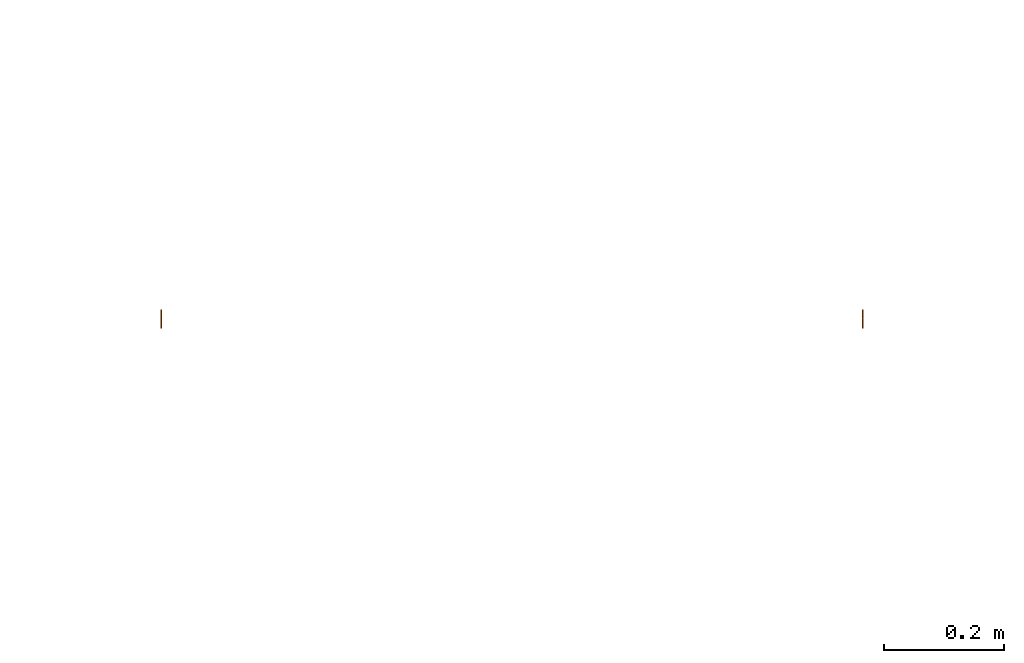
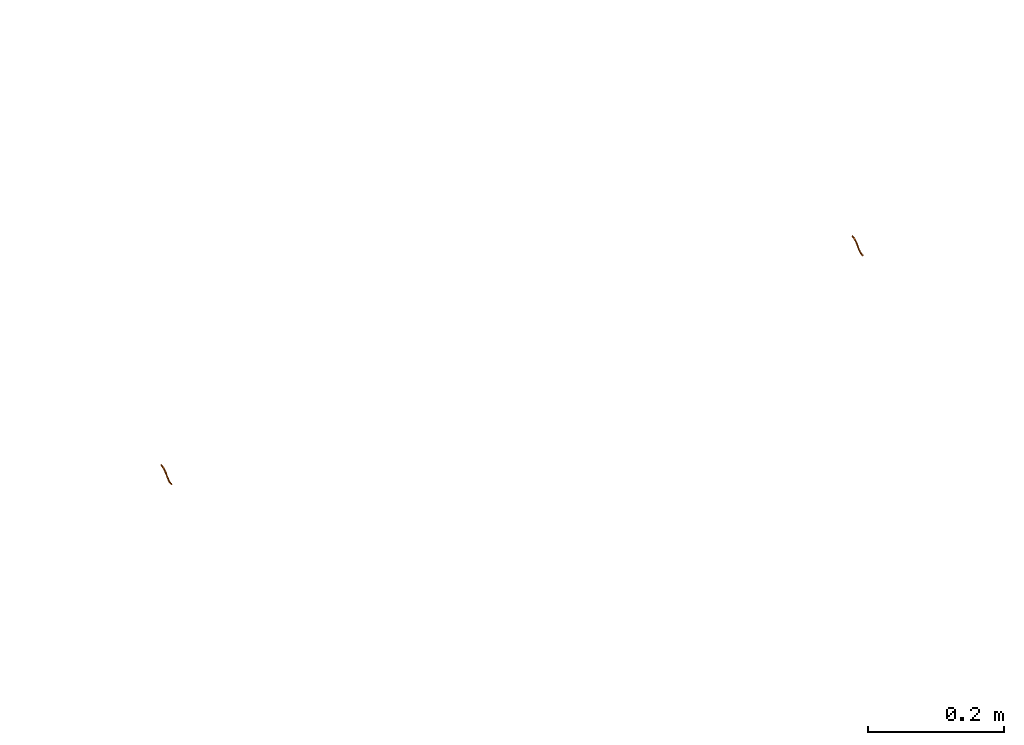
# One storey, part 193 of 197: 2 proxies.
"""IFC2X3 building model written with IfcOpenShell, lengths in metres."""

from ifc_helpers import new_model, entity, si_unit, converted_unit, direction, frame, origin, place, context, subcontext, project, spatial, faceted_brep, source, transform, mapped, material, type_object, type_shapes, element, save


model = new_model("IFC2X3")

# Units and contexts
model_context = context("Model", 3, precision=1e-05, world=origin(), true_north=direction((6.123031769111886e-17, 1.0)))
body_context = subcontext(model_context, "Body", "Model", "MODEL_VIEW")
ifc_project = project(units=[si_unit("LENGTHUNIT", "METRE"), converted_unit("PLANEANGLEUNIT", "DEGREE", entity("IfcPlaneAngleMeasure", 0.017453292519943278), si_unit("PLANEANGLEUNIT", "RADIAN"), dimensions=[0, 0, 0, 0, 0, 0, 0]), si_unit("AREAUNIT", "SQUARE_METRE")], contexts=[model_context])

# Site, building, storey
site_placement = place(None, origin())
site = spatial("IfcSite", under=ifc_project, at=site_placement, Name="Default", CompositionType="ELEMENT")
building_placement = place(site_placement, origin())
building = spatial("IfcBuilding", under=site, at=building_placement, CompositionType="ELEMENT")
storey_placement = place(building_placement, origin())
storey = spatial("IfcBuildingStorey", under=building, at=storey_placement, Name="Niveau 0", CompositionType="ELEMENT", Elevation=0.0)

# Proxies
ifc_material = material(Name="<Unnamed>")
building_element_proxy_type_1 = type_object("IfcBuildingElementProxyType", Name="Attente électrique-100e:FM CVC", PredefinedType="NOTDEFINED", material=ifc_material)
shared_shape_1 = source(origin(), body_context, "Body", "Brep", [
    faceted_brep([(0.00015679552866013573, 0.02468901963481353, 0.0071236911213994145), (-0.0008432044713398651, 0.024606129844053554, 0.00812024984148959), (0.00015679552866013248, 0.024523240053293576, 0.009116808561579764), (0.0011567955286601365, 0.024606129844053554, 0.008120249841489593), (0.0010682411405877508, 0.020307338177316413, 0.007781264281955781), (0.0001567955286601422, 0.020902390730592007, 0.005938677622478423), (0.0011263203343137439, 0.017575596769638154, 0.006150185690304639), (0.0001567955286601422, 0.015326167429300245, 0.00419361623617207), (0.00015679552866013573, 0.020007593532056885, 0.005658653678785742), (0.00015679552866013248, 0.014326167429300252, 0.005925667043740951), (0.0009522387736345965, 0.011698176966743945, 0.0036743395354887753), (0.0009420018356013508, 0.015917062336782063, 0.006344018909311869), (0.00015679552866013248, 0.010395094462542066, 0.0023079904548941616), (0.00015679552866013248, 0.009383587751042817, 0.0013771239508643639), (0.00015679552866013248, 0.006464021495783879, -0.00130968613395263), (0.0006567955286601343, 0.006874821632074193, -0.0015947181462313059), (0.0011567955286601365, 0.007285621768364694, -0.0018797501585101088), (0.0001567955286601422, 0.008107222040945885, -0.002449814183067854), (0.0010477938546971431, 0.01190066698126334, 0.002476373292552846), (0.0001567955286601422, 0.011716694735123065, 0.000871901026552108), (0.00015679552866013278, 0.020736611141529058, 0.007931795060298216), (0.00015679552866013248, 0.01942470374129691, 0.0075212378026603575), (-0.000613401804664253, 0.017791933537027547, 0.005814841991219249), (-0.0008432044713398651, 0.007285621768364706, -0.0018797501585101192), (-0.0006561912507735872, 0.013063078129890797, 0.003217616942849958), (-0.0007811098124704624, 0.017711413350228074, 0.006845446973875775), (-0.000757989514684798, 0.011606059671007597, 0.0033430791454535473), (0.00015679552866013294, -0.006217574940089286, -0.0072232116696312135), (-0.0008432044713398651, -0.006308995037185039, -0.00821902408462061), (-0.00022603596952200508, -0.006365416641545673, -0.00883360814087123), (0.00015679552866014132, -0.006400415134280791, -0.009214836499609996), (0.0011567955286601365, -0.006308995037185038, -0.008219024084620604), (0.0005396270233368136, -0.006252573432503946, -0.0076044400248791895), (0.0001567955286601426, 0.00342572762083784, -0.0063951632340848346), (0.0008639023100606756, 0.004493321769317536, -0.005806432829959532), (0.0009254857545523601, 0.0019625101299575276, -0.007298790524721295), (0.00015679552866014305, -0.002505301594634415, -0.008536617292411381), (0.00015679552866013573, 0.00493736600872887, -0.005121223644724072), (0.00015679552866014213, 0.005083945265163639, -0.0049976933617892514), (0.00015679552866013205, -0.002322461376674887, -0.006544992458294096), (0.00015679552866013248, -0.002647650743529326, -0.006601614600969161), (0.0009203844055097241, 0.004301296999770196, -0.0042243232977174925), (0.00015679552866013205, 0.0036931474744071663, -0.003644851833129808), (0.00015679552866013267, 0.0034407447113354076, -0.0038575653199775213), (0.00015679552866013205, 0.0009222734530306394, -0.005980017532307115), (0.0010089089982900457, -0.0014622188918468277, -0.008405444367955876), (0.001064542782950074, -0.00036395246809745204, -0.0071166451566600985), (0.0011567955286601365, 0.003257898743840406, -0.0058162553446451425), (0.00015679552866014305, 0.0017675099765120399, -0.007792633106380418), (0.001078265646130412, -0.0034805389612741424, -0.007818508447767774), (0.0011516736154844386, 0.005514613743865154, -0.004127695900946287), (-0.0006872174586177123, 0.004983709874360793, -0.0037543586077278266), (-0.0008432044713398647, 0.0028123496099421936, -0.006099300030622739), (-0.0006218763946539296, -0.0034380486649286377, -0.008835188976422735), (-0.0008173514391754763, -0.003105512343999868, -0.007939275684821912), (-0.0007245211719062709, -0.0005251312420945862, -0.008103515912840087), (-0.000725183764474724, 0.005518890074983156, -0.004634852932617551), (-0.0006856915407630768, -0.0001638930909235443, -0.006921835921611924)], [[[0, 1, 2, 3]], [[2, 4, 3]], [[3, 5, 0]], [[6, 5, 3]], [[6, 7, 8, 5]], [[9, 10, 11]], [[10, 9, 12, 13]], [[13, 14, 15, 16]], [[16, 10, 13]], [[17, 18, 16]], [[18, 17, 19, 7]], [[11, 10, 18]], [[6, 18, 7]], [[11, 18, 6]], [[10, 16, 18]], [[4, 6, 3]], [[4, 11, 6]], [[4, 2, 20, 21]], [[21, 9, 11]], [[21, 11, 4]], [[22, 1, 0]], [[23, 24, 19]], [[25, 9, 21, 20]], [[25, 20, 1]], [[7, 24, 22]], [[25, 24, 26]], [[24, 7, 19]], [[24, 23, 26]], [[23, 12, 26]], [[20, 2, 1]], [[25, 22, 24]], [[9, 25, 26]], [[17, 23, 19]], [[1, 22, 25]], [[22, 0, 5, 8, 7]], [[23, 14, 13, 12]], [[12, 9, 26]], [[27, 28, 29, 30, 31, 32]], [[33, 34, 35]], [[31, 30, 36]], [[34, 33, 37, 38]], [[32, 39, 40, 27]], [[41, 14, 42, 43, 44]], [[45, 31, 36]], [[44, 46, 47]], [[39, 46, 44]], [[48, 33, 35]], [[15, 14, 41]], [[35, 46, 45]], [[49, 32, 31]], [[45, 46, 49]], [[16, 50, 17]], [[32, 49, 39]], [[39, 49, 46]], [[31, 45, 49]], [[48, 45, 36]], [[47, 35, 34]], [[50, 38, 17]], [[50, 47, 34]], [[46, 35, 47]], [[45, 48, 35]], [[50, 34, 38]], [[41, 47, 50]], [[50, 16, 15]], [[47, 41, 44]], [[15, 41, 50]], [[43, 51, 52]], [[51, 14, 23]], [[43, 52, 44]], [[53, 54, 55]], [[56, 17, 38, 37, 33, 48]], [[54, 53, 28]], [[48, 55, 52]], [[52, 55, 57]], [[56, 52, 51]], [[52, 57, 44]], [[54, 57, 55]], [[48, 36, 55]], [[40, 57, 54]], [[36, 30, 29]], [[54, 27, 40]], [[57, 40, 39, 44]], [[54, 28, 27]], [[53, 55, 36]], [[36, 29, 53]], [[28, 53, 29]], [[51, 43, 42, 14]], [[52, 56, 48]], [[56, 51, 23]], [[17, 56, 23]]]),
])
type_shapes(building_element_proxy_type_1, [shared_shape_1])
proxy_1_placement = place(storey_placement, frame((-392.5304485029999, 86.35817683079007, 0.0)))
element("IfcBuildingElementProxy", 1, at=proxy_1_placement, inside=storey, type_object=building_element_proxy_type_1, material=ifc_material, Name="Attente électrique-100e:FM CVC", ObjectType="Attente électrique-100e:FM CVC", context=body_context, shape_type="MappedRepresentation", body=[
    mapped(shared_shape_1, transform((0.0, 0.0, 0.0), scale=1.0)),
])
building_element_proxy_type_2 = type_object("IfcBuildingElementProxyType", Name="Attente électrique-100e:FM ELEC", PredefinedType="NOTDEFINED", material=ifc_material)
shared_shape_2 = source(origin(), body_context, "Body", "Brep", [
    faceted_brep([(0.00015679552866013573, 0.02468901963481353, 0.0071236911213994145), (-0.0008432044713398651, 0.024606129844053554, 0.00812024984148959), (0.00015679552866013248, 0.024523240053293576, 0.009116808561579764), (0.0011567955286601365, 0.024606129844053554, 0.008120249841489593), (0.0010682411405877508, 0.020307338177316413, 0.007781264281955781), (0.0001567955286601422, 0.020902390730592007, 0.005938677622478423), (0.0011263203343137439, 0.017575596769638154, 0.006150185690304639), (0.0001567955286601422, 0.015326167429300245, 0.00419361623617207), (0.00015679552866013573, 0.020007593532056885, 0.005658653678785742), (0.00015679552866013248, 0.014326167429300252, 0.005925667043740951), (0.0009522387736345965, 0.011698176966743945, 0.0036743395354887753), (0.0009420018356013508, 0.015917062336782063, 0.006344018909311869), (0.00015679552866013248, 0.010395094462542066, 0.0023079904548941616), (0.00015679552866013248, 0.009383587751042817, 0.0013771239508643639), (0.00015679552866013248, 0.006464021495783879, -0.00130968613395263), (0.0006567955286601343, 0.006874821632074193, -0.0015947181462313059), (0.0011567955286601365, 0.007285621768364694, -0.0018797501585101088), (0.0001567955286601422, 0.008107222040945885, -0.002449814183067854), (0.0010477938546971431, 0.01190066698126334, 0.002476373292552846), (0.0001567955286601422, 0.011716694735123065, 0.000871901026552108), (0.00015679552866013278, 0.020736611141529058, 0.007931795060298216), (0.00015679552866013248, 0.01942470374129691, 0.0075212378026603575), (-0.000613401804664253, 0.017791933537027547, 0.005814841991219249), (-0.0008432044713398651, 0.007285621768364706, -0.0018797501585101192), (-0.0006561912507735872, 0.013063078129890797, 0.003217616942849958), (-0.0007811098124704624, 0.017711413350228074, 0.006845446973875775), (-0.000757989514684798, 0.011606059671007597, 0.0033430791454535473), (0.00015679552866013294, -0.006217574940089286, -0.0072232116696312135), (-0.0008432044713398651, -0.006308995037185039, -0.00821902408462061), (-0.00022603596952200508, -0.006365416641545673, -0.00883360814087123), (0.00015679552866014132, -0.006400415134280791, -0.009214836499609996), (0.0011567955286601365, -0.006308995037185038, -0.008219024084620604), (0.0005396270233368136, -0.006252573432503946, -0.0076044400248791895), (0.0001567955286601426, 0.00342572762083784, -0.0063951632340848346), (0.0008639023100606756, 0.004493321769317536, -0.005806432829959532), (0.0009254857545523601, 0.0019625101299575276, -0.007298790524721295), (0.00015679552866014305, -0.002505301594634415, -0.008536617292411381), (0.00015679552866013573, 0.00493736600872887, -0.005121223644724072), (0.00015679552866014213, 0.005083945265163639, -0.0049976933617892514), (0.00015679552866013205, -0.002322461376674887, -0.006544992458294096), (0.00015679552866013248, -0.002647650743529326, -0.006601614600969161), (0.0009203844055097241, 0.004301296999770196, -0.0042243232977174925), (0.00015679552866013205, 0.0036931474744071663, -0.003644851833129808), (0.00015679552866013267, 0.0034407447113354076, -0.0038575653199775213), (0.00015679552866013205, 0.0009222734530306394, -0.005980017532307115), (0.0010089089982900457, -0.0014622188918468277, -0.008405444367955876), (0.001064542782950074, -0.00036395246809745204, -0.0071166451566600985), (0.0011567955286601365, 0.003257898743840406, -0.0058162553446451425), (0.00015679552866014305, 0.0017675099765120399, -0.007792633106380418), (0.001078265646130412, -0.0034805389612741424, -0.007818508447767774), (0.0011516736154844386, 0.005514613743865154, -0.004127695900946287), (-0.0006872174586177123, 0.004983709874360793, -0.0037543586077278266), (-0.0008432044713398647, 0.0028123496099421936, -0.006099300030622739), (-0.0006218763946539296, -0.0034380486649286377, -0.008835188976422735), (-0.0008173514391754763, -0.003105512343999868, -0.007939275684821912), (-0.0007245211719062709, -0.0005251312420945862, -0.008103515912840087), (-0.000725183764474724, 0.005518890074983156, -0.004634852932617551), (-0.0006856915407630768, -0.0001638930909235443, -0.006921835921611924)], [[[0, 1, 2, 3]], [[2, 4, 3]], [[3, 5, 0]], [[6, 5, 3]], [[6, 7, 8, 5]], [[9, 10, 11]], [[10, 9, 12, 13]], [[13, 14, 15, 16]], [[16, 10, 13]], [[17, 18, 16]], [[18, 17, 19, 7]], [[11, 10, 18]], [[6, 18, 7]], [[11, 18, 6]], [[10, 16, 18]], [[4, 6, 3]], [[4, 11, 6]], [[4, 2, 20, 21]], [[21, 9, 11]], [[21, 11, 4]], [[22, 1, 0]], [[23, 24, 19]], [[25, 9, 21, 20]], [[25, 20, 1]], [[7, 24, 22]], [[25, 24, 26]], [[24, 7, 19]], [[24, 23, 26]], [[23, 12, 26]], [[20, 2, 1]], [[25, 22, 24]], [[9, 25, 26]], [[17, 23, 19]], [[1, 22, 25]], [[22, 0, 5, 8, 7]], [[23, 14, 13, 12]], [[12, 9, 26]], [[27, 28, 29, 30, 31, 32]], [[33, 34, 35]], [[31, 30, 36]], [[34, 33, 37, 38]], [[32, 39, 40, 27]], [[41, 14, 42, 43, 44]], [[45, 31, 36]], [[44, 46, 47]], [[39, 46, 44]], [[48, 33, 35]], [[15, 14, 41]], [[35, 46, 45]], [[49, 32, 31]], [[45, 46, 49]], [[16, 50, 17]], [[32, 49, 39]], [[39, 49, 46]], [[31, 45, 49]], [[48, 45, 36]], [[47, 35, 34]], [[50, 38, 17]], [[50, 47, 34]], [[46, 35, 47]], [[45, 48, 35]], [[50, 34, 38]], [[41, 47, 50]], [[50, 16, 15]], [[47, 41, 44]], [[15, 41, 50]], [[43, 51, 52]], [[51, 14, 23]], [[43, 52, 44]], [[53, 54, 55]], [[56, 17, 38, 37, 33, 48]], [[54, 53, 28]], [[48, 55, 52]], [[52, 55, 57]], [[56, 52, 51]], [[52, 57, 44]], [[54, 57, 55]], [[48, 36, 55]], [[40, 57, 54]], [[36, 30, 29]], [[54, 27, 40]], [[57, 40, 39, 44]], [[54, 28, 27]], [[53, 55, 36]], [[36, 29, 53]], [[28, 53, 29]], [[51, 43, 42, 14]], [[52, 56, 48]], [[56, 51, 23]], [[17, 56, 23]]]),
])
type_shapes(building_element_proxy_type_2, [shared_shape_2])
proxy_2_placement = place(storey_placement, frame((-391.3574485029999, 86.35817683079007, 0.0)))
element("IfcBuildingElementProxy", 2, at=proxy_2_placement, inside=storey, type_object=building_element_proxy_type_2, material=ifc_material, Name="Attente électrique-100e:FM ELEC", ObjectType="Attente électrique-100e:FM ELEC", context=body_context, shape_type="MappedRepresentation", body=[
    mapped(shared_shape_2, transform((0.0, 0.0, 0.0), scale=1.0)),
])

save(model, "model.ifc")
